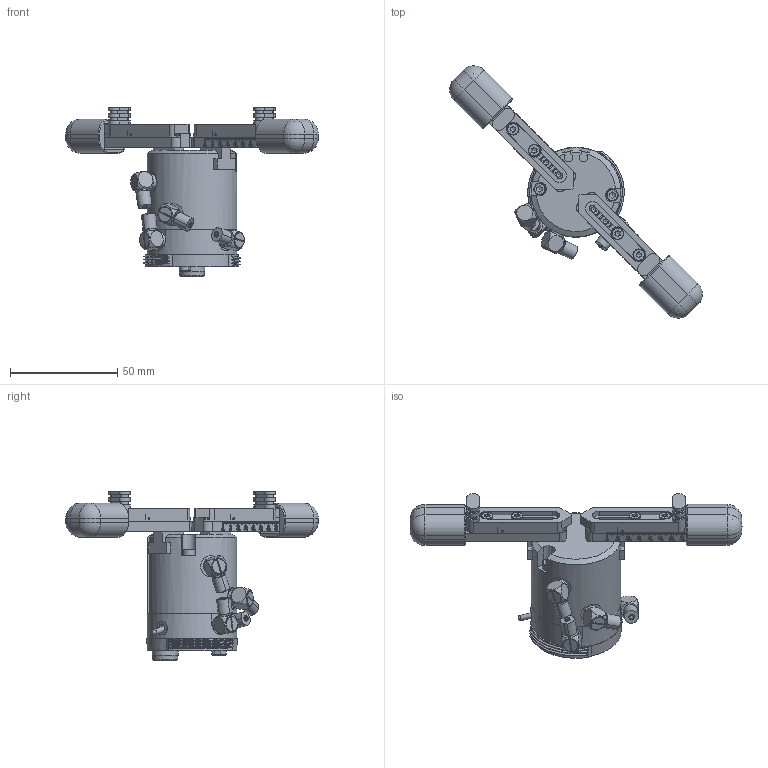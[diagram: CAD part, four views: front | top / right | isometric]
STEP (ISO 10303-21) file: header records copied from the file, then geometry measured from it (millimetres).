
FILE_DESCRIPTION(/* description */ (''),/* implementation_level */ '2;1');
FILE_NAME(/* name */ 'C:\Users\Uffe Safeldt\Dropbox\SoftBox_Documents\Inventor\QuickTool\CAD\PG-2_CAD.stp',/* time_stamp */ '2018-09-01T16:08:28+02:00',/* author */ ('Uffe Safeldt'),/* organization */ (''),/* preprocessor_version */ 'ST-DEVELOPER v15.2',/* originating_system */ 'Autodesk Inventor 2014',/* authorisation */ '');
FILE_SCHEMA (('AUTOMOTIVE_DESIGN { 1 0 10303 214 3 1 1 }'));
Products named in the file (8): PG-2_CAD; Ruler; Clamp; Washer; M3x8; Bumper; PG-Clamp
Assembly tree (11 placements, depth 3):
  PG-2_CAD
    PG-2_CAD
    PG-Clamp  x2
      Ruler
      Clamp
      Washer
      M3x8
      Bumper
Bounding box: 117.94 x 117.81 x 79.3 mm (x, y, z)
Volume: 99575.1 mm3; surface area: 36541.5 mm2
Topology: 17 solids, 27 shells, 3193 faces, 8589 edges, 5696 vertices
Faces by surface type: plane 1713, bspline 944, cylinder 393, cone 86, sphere 29, torus 28
Full cylindrical faces by diameter (mm): 0.9 x16, 1 x4, 1.48 x8, 1.5 x8, 2.459 x12, 2.5 x3, 2.8 x8, 3 x15, 3.1 x4, 3.4 x2, 4 x1, 4.134 x2, 5.5 x10, 6.2 x1, 6.3 x1, 6.5 x4, 8.2 x1, 10 x2, 12 x1, 26 x1, 42 x1
Entity records: 60615 total; most frequent: CARTESIAN_POINT 18646, ORIENTED_EDGE 8976, DIRECTION 6576, EDGE_CURVE 4488, VERTEX_POINT 3040, LINE 2888, VECTOR 2888, EDGE_LOOP 2078
